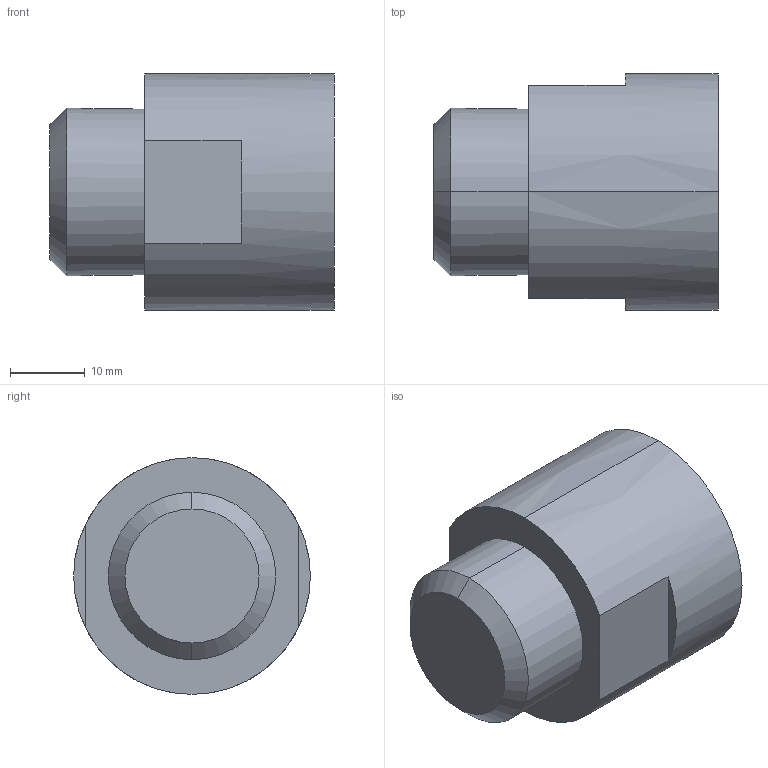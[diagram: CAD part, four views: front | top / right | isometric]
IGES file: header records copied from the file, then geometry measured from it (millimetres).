
Start section: SolidWorks IGES file using analytic representation for surfaces
Global section: file name: S:\Product Visuals\Defeatured Models and Parts Library\Parts Library IGES & STEP\Liquid Fittings\Front Mount liquid Fittings\Female NPT\30LPM\Fitting FNPT 04.IGS; native system: SolidWorks 2012; preprocessor: SolidWorks 2012; author: rachel.dressel; date: 120926.150837; units: inch
Bounding box: 38.1 x 31.75 x 31.75 mm (x, y, z)
Volume: 23384.6 mm3; surface area: 5317.9 mm2
Topology: 1 solids, 1 shells, 18 faces, 38 edges, 24 vertices
Faces by surface type: revolution 10, plane 8
